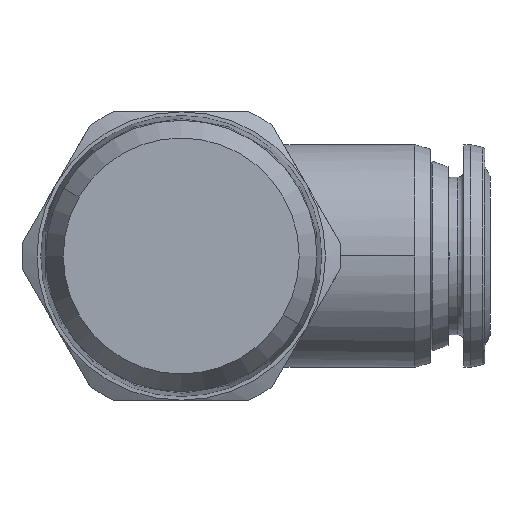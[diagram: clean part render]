
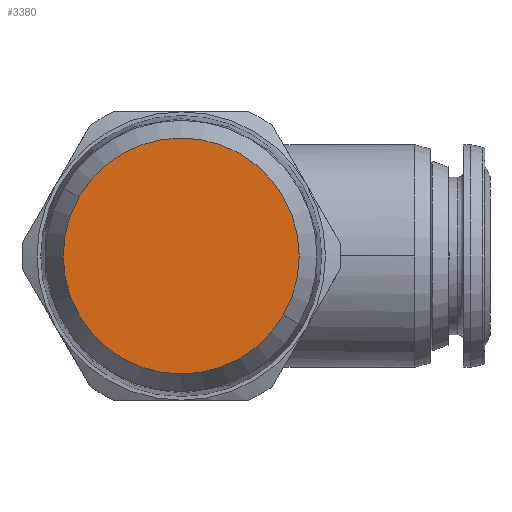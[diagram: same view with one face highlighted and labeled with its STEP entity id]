
A CAD part, front view. The second image highlights one B-rep face of the part: STEP entity #3380.
In plain terms, the highlighted planar face has unit normal (0, -1, 0).
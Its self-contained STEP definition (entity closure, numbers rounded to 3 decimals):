
#76 = CIRCLE ( 'NONE', #2770, 9. ) ;
#142 = VERTEX_POINT ( 'NONE', #3427 ) ;
#153 = DIRECTION ( 'NONE',  ( 0., -1., 0. ) ) ;
#566 = CARTESIAN_POINT ( 'NONE',  ( 7.794, -21.15, -4.5 ) ) ;
#642 = CARTESIAN_POINT ( 'NONE',  ( 0., -21.15, 0. ) ) ;
#732 = CARTESIAN_POINT ( 'NONE',  ( 0., -21.15, 0. ) ) ;
#1059 = DIRECTION ( 'NONE',  ( 0.866, 0., -0.5 ) ) ;
#1076 = EDGE_LOOP ( 'NONE', ( #2144, #2443 ) ) ;
#1301 = AXIS2_PLACEMENT_3D ( 'NONE', #642, #1751, #3324 ) ;
#1735 = VERTEX_POINT ( 'NONE', #566 ) ;
#1751 = DIRECTION ( 'NONE',  ( 0., -1., 0. ) ) ;
#1790 = PLANE ( 'NONE',  #2198 ) ;
#2065 = CARTESIAN_POINT ( 'NONE',  ( 0., -21.15, 0. ) ) ;
#2144 = ORIENTED_EDGE ( 'NONE', *, *, #2260, .T. ) ;
#2198 = AXIS2_PLACEMENT_3D ( 'NONE', #2065, #2865, #1059 ) ;
#2259 = CIRCLE ( 'NONE', #1301, 9. ) ;
#2260 = EDGE_CURVE ( 'NONE', #142, #1735, #2259, .T. ) ;
#2346 = DIRECTION ( 'NONE',  ( 0.866, 0., -0.5 ) ) ;
#2443 = ORIENTED_EDGE ( 'NONE', *, *, #2736, .T. ) ;
#2736 = EDGE_CURVE ( 'NONE', #1735, #142, #76, .T. ) ;
#2770 = AXIS2_PLACEMENT_3D ( 'NONE', #732, #153, #2346 ) ;
#2865 = DIRECTION ( 'NONE',  ( 0., -1., 0. ) ) ;
#3176 = FACE_OUTER_BOUND ( 'NONE', #1076, .T. ) ;
#3324 = DIRECTION ( 'NONE',  ( 0.866, 0., -0.5 ) ) ;
#3380 = ADVANCED_FACE ( 'NONE', ( #3176 ), #1790, .T. ) ;
#3427 = CARTESIAN_POINT ( 'NONE',  ( -7.794, -21.15, 4.5 ) ) ;
